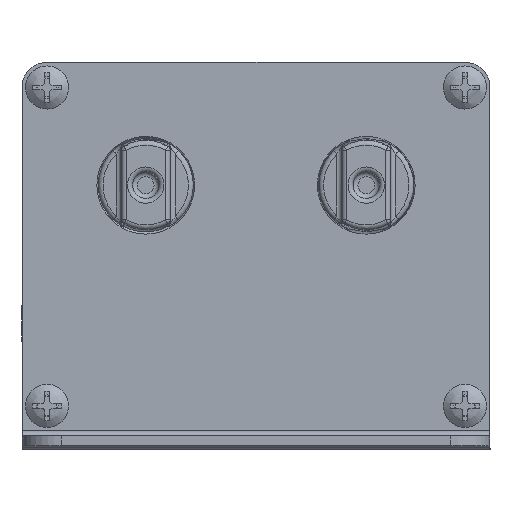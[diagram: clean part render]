
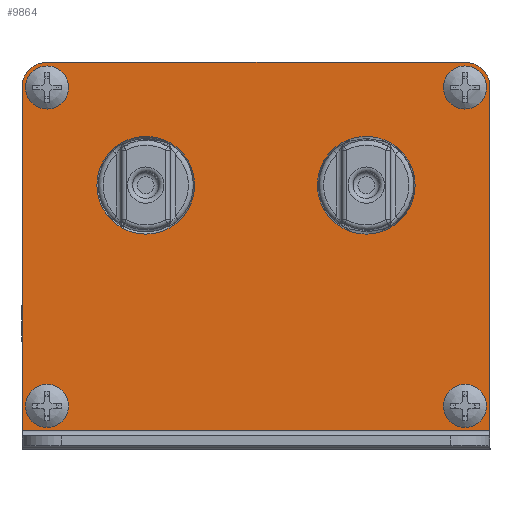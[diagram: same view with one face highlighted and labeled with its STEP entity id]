
A CAD part, top view. The second image highlights one B-rep face of the part: STEP entity #9864.
In plain terms, the highlighted planar face has unit normal (0, 0, 1).
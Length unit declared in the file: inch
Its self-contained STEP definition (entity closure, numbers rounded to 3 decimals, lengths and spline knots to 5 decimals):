
#660=LINE('',#17494,#1476);
#661=LINE('',#17496,#1477);
#662=LINE('',#17498,#1478);
#663=LINE('',#17501,#1479);
#1476=VECTOR('',#12853,0.3937);
#1477=VECTOR('',#12854,0.3937);
#1478=VECTOR('',#12855,0.3937);
#1479=VECTOR('',#12858,0.3937);
#2091=FACE_BOUND('',#2885,.T.);
#2092=FACE_BOUND('',#2886,.T.);
#2093=FACE_BOUND('',#2887,.T.);
#2094=FACE_BOUND('',#2888,.T.);
#2095=FACE_BOUND('',#2889,.T.);
#2096=FACE_BOUND('',#2890,.T.);
#2346=FACE_OUTER_BOUND('',#2884,.T.);
#2884=EDGE_LOOP('',(#7761,#7762,#7763,#7764,#7765,#7766));
#2885=EDGE_LOOP('',(#7767,#7768));
#2886=EDGE_LOOP('',(#7769,#7770));
#2887=EDGE_LOOP('',(#7771,#7772));
#2888=EDGE_LOOP('',(#7773,#7774));
#2889=EDGE_LOOP('',(#7775,#7776));
#2890=EDGE_LOOP('',(#7777,#7778));
#3277=CIRCLE('',#10349,0.17323);
#3278=CIRCLE('',#10350,0.17323);
#3302=CIRCLE('',#10397,0.17323);
#3303=CIRCLE('',#10398,0.17323);
#3319=CIRCLE('',#10436,0.17323);
#3320=CIRCLE('',#10437,0.17323);
#3336=CIRCLE('',#10475,0.17323);
#3337=CIRCLE('',#10476,0.17323);
#3521=CIRCLE('',#10733,0.19685);
#3522=CIRCLE('',#10734,0.19685);
#3523=CIRCLE('',#10735,0.3878);
#3524=CIRCLE('',#10736,0.3878);
#3525=CIRCLE('',#10737,0.3878);
#3526=CIRCLE('',#10738,0.3878);
#3886=VERTEX_POINT('',#15296);
#3887=VERTEX_POINT('',#15297);
#3940=VERTEX_POINT('',#15631);
#3941=VERTEX_POINT('',#15632);
#3985=VERTEX_POINT('',#15946);
#3986=VERTEX_POINT('',#15947);
#4030=VERTEX_POINT('',#16261);
#4031=VERTEX_POINT('',#16262);
#4481=VERTEX_POINT('',#17490);
#4482=VERTEX_POINT('',#17491);
#4483=VERTEX_POINT('',#17493);
#4484=VERTEX_POINT('',#17495);
#4485=VERTEX_POINT('',#17497);
#4486=VERTEX_POINT('',#17499);
#4487=VERTEX_POINT('',#17502);
#4488=VERTEX_POINT('',#17503);
#4489=VERTEX_POINT('',#17506);
#4490=VERTEX_POINT('',#17507);
#4941=EDGE_CURVE('',#3886,#3887,#3277,.T.);
#4942=EDGE_CURVE('',#3887,#3886,#3278,.T.);
#5018=EDGE_CURVE('',#3940,#3941,#3302,.T.);
#5019=EDGE_CURVE('',#3941,#3940,#3303,.T.);
#5085=EDGE_CURVE('',#3985,#3986,#3319,.T.);
#5086=EDGE_CURVE('',#3986,#3985,#3320,.T.);
#5152=EDGE_CURVE('',#4030,#4031,#3336,.T.);
#5153=EDGE_CURVE('',#4031,#4030,#3337,.T.);
#5676=EDGE_CURVE('',#4481,#4482,#3521,.T.);
#5677=EDGE_CURVE('',#4481,#4483,#660,.T.);
#5678=EDGE_CURVE('',#4483,#4484,#661,.T.);
#5679=EDGE_CURVE('',#4485,#4484,#662,.T.);
#5680=EDGE_CURVE('',#4486,#4485,#3522,.T.);
#5681=EDGE_CURVE('',#4482,#4486,#663,.T.);
#5682=EDGE_CURVE('',#4487,#4488,#3523,.T.);
#5683=EDGE_CURVE('',#4488,#4487,#3524,.T.);
#5684=EDGE_CURVE('',#4489,#4490,#3525,.T.);
#5685=EDGE_CURVE('',#4490,#4489,#3526,.T.);
#7761=ORIENTED_EDGE('',*,*,#5676,.F.);
#7762=ORIENTED_EDGE('',*,*,#5677,.T.);
#7763=ORIENTED_EDGE('',*,*,#5678,.T.);
#7764=ORIENTED_EDGE('',*,*,#5679,.F.);
#7765=ORIENTED_EDGE('',*,*,#5680,.F.);
#7766=ORIENTED_EDGE('',*,*,#5681,.F.);
#7767=ORIENTED_EDGE('',*,*,#4941,.T.);
#7768=ORIENTED_EDGE('',*,*,#4942,.T.);
#7769=ORIENTED_EDGE('',*,*,#5018,.T.);
#7770=ORIENTED_EDGE('',*,*,#5019,.T.);
#7771=ORIENTED_EDGE('',*,*,#5085,.T.);
#7772=ORIENTED_EDGE('',*,*,#5086,.T.);
#7773=ORIENTED_EDGE('',*,*,#5152,.T.);
#7774=ORIENTED_EDGE('',*,*,#5153,.T.);
#7775=ORIENTED_EDGE('',*,*,#5682,.F.);
#7776=ORIENTED_EDGE('',*,*,#5683,.F.);
#7777=ORIENTED_EDGE('',*,*,#5684,.F.);
#7778=ORIENTED_EDGE('',*,*,#5685,.F.);
#9233=PLANE('',#10732);
#9864=ADVANCED_FACE('',(#2346,#2091,#2092,#2093,#2094,#2095,#2096),#9233,
 .T.);
#10349=AXIS2_PLACEMENT_3D('',#15298,#11664,#11665);
#10350=AXIS2_PLACEMENT_3D('',#15299,#11666,#11667);
#10397=AXIS2_PLACEMENT_3D('',#15633,#11794,#11795);
#10398=AXIS2_PLACEMENT_3D('',#15634,#11796,#11797);
#10436=AXIS2_PLACEMENT_3D('',#15948,#11904,#11905);
#10437=AXIS2_PLACEMENT_3D('',#15949,#11906,#11907);
#10475=AXIS2_PLACEMENT_3D('',#16263,#12014,#12015);
#10476=AXIS2_PLACEMENT_3D('',#16264,#12016,#12017);
#10732=AXIS2_PLACEMENT_3D('',#17489,#12849,#12850);
#10733=AXIS2_PLACEMENT_3D('',#17492,#12851,#12852);
#10734=AXIS2_PLACEMENT_3D('',#17500,#12856,#12857);
#10735=AXIS2_PLACEMENT_3D('',#17504,#12859,#12860);
#10736=AXIS2_PLACEMENT_3D('',#17505,#12861,#12862);
#10737=AXIS2_PLACEMENT_3D('',#17508,#12863,#12864);
#10738=AXIS2_PLACEMENT_3D('',#17509,#12865,#12866);
#11664=DIRECTION('center_axis',(0.,0.,
-1.));
#11665=DIRECTION('ref_axis',(1.,0.,0.));
#11666=DIRECTION('center_axis',(0.,0.,
-1.));
#11667=DIRECTION('ref_axis',(1.,0.,0.));
#11794=DIRECTION('center_axis',(0.,0.,
-1.));
#11795=DIRECTION('ref_axis',(1.,0.,0.));
#11796=DIRECTION('center_axis',(0.,0.,
-1.));
#11797=DIRECTION('ref_axis',(1.,0.,0.));
#11904=DIRECTION('center_axis',(0.,0.,
-1.));
#11905=DIRECTION('ref_axis',(1.,0.,0.));
#11906=DIRECTION('center_axis',(0.,0.,
-1.));
#11907=DIRECTION('ref_axis',(1.,0.,0.));
#12014=DIRECTION('center_axis',(0.,0.,
-1.));
#12015=DIRECTION('ref_axis',(1.,0.,0.));
#12016=DIRECTION('center_axis',(0.,0.,
-1.));
#12017=DIRECTION('ref_axis',(1.,0.,0.));
#12849=DIRECTION('center_axis',(0.,0.,
1.));
#12850=DIRECTION('ref_axis',(0.,-1.,0.));
#12851=DIRECTION('center_axis',(0.,0.,
-1.));
#12852=DIRECTION('ref_axis',(-0.707,0.707,0.));
#12853=DIRECTION('',(0.,-1.,0.));
#12854=DIRECTION('',(1.,0.,0.));
#12855=DIRECTION('',(0.,-1.,0.));
#12856=DIRECTION('center_axis',(0.,0.,
-1.));
#12857=DIRECTION('ref_axis',(0.707,0.707,0.));
#12858=DIRECTION('',(1.,0.,0.));
#12859=DIRECTION('center_axis',(0.,0.,
1.));
#12860=DIRECTION('ref_axis',(1.,0.,0.));
#12861=DIRECTION('center_axis',(0.,0.,
1.));
#12862=DIRECTION('ref_axis',(1.,0.,0.));
#12863=DIRECTION('center_axis',(0.,0.,
1.));
#12864=DIRECTION('ref_axis',(1.,0.,0.));
#12865=DIRECTION('center_axis',(0.,0.,
1.));
#12866=DIRECTION('ref_axis',(1.,0.,0.));
#15296=CARTESIAN_POINT('',(3.82655,2.17512,13.26507));
#15297=CARTESIAN_POINT('',(3.48009,2.17512,13.26507));
#15298=CARTESIAN_POINT('Origin',(3.65332,2.17512,13.26507));
#15299=CARTESIAN_POINT('Origin',(3.65332,2.17512,13.26507));
#15631=CARTESIAN_POINT('',(0.46955,-0.38267,13.26507));
#15632=CARTESIAN_POINT('',(0.12309,-0.38267,13.26507));
#15633=CARTESIAN_POINT('Origin',(0.29632,-0.38267,13.26507));
#15634=CARTESIAN_POINT('Origin',(0.29632,-0.38267,13.26507));
#15946=CARTESIAN_POINT('',(0.46955,2.17512,13.26507));
#15947=CARTESIAN_POINT('',(0.12309,2.17512,13.26507));
#15948=CARTESIAN_POINT('Origin',(0.29632,2.17512,13.26507));
#15949=CARTESIAN_POINT('Origin',(0.29632,2.17512,13.26507));
#16261=CARTESIAN_POINT('',(3.82655,-0.38267,13.26507));
#16262=CARTESIAN_POINT('',(3.48009,-0.38267,13.26507));
#16263=CARTESIAN_POINT('Origin',(3.65332,-0.38267,13.26507));
#16264=CARTESIAN_POINT('Origin',(3.65332,-0.38267,13.26507));
#17489=CARTESIAN_POINT('Origin',(0.0949,2.37654,13.26507));
#17490=CARTESIAN_POINT('',(0.0949,2.17969,13.26507));
#17491=CARTESIAN_POINT('',(0.29175,2.37654,13.26507));
#17492=CARTESIAN_POINT('Origin',(0.29175,2.17969,13.26507));
#17493=CARTESIAN_POINT('',(0.0949,-0.58409,13.26507));
#17494=CARTESIAN_POINT('',(0.0949,2.37654,13.26507));
#17495=CARTESIAN_POINT('',(3.85474,-0.58409,13.26507));
#17496=CARTESIAN_POINT('',(0.0949,-0.58409,13.26507));
#17497=CARTESIAN_POINT('',(3.85474,2.17969,13.26507));
#17498=CARTESIAN_POINT('',(3.85474,2.37654,13.26507));
#17499=CARTESIAN_POINT('',(3.65789,2.37654,13.26507));
#17500=CARTESIAN_POINT('Origin',(3.65789,2.17969,13.26507));
#17501=CARTESIAN_POINT('',(0.0949,2.37654,13.26507));
#17502=CARTESIAN_POINT('',(1.08899,1.77678,13.26507));
#17503=CARTESIAN_POINT('',(1.08899,1.00119,13.26507));
#17504=CARTESIAN_POINT('Origin',(1.08899,1.38899,13.26507));
#17505=CARTESIAN_POINT('Origin',(1.08899,1.38899,13.26507));
#17506=CARTESIAN_POINT('',(2.86065,1.77678,13.26507));
#17507=CARTESIAN_POINT('',(2.86065,1.00119,13.26507));
#17508=CARTESIAN_POINT('Origin',(2.86065,1.38899,13.26507));
#17509=CARTESIAN_POINT('Origin',(2.86065,1.38899,13.26507));
